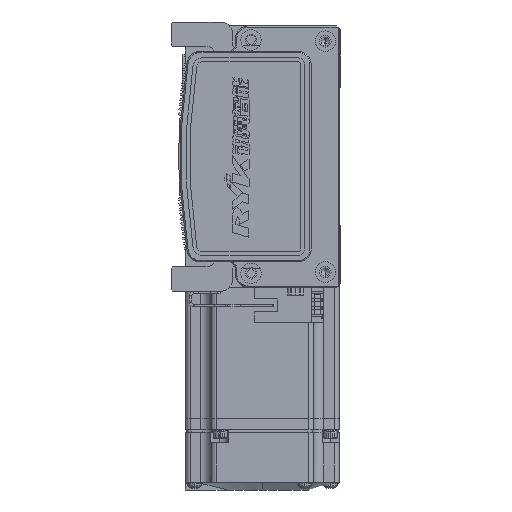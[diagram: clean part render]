
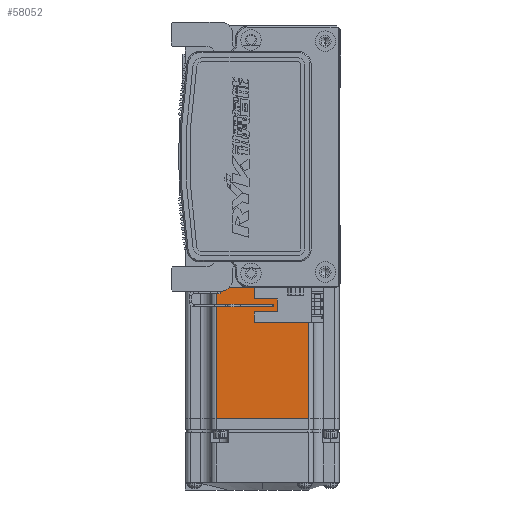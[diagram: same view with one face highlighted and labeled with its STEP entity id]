
A CAD part, left-side view. The second image highlights one B-rep face of the part: STEP entity #58052.
In plain terms, the highlighted planar face has unit normal (-1, 0, 0) as drawn and (0, 0, 1) by its records, which use the part's own axes.
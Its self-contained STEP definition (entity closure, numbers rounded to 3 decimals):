
#493 = VECTOR ( 'NONE', #22942, 1000. ) ;
#2596 = DIRECTION ( 'NONE',  ( -1., 0., 0. ) ) ;
#8461 = VERTEX_POINT ( 'NONE', #48871 ) ;
#10957 = ORIENTED_EDGE ( 'NONE', *, *, #15769, .F. ) ;
#15769 = EDGE_CURVE ( 'NONE', #8461, #68010, #45784, .T. ) ;
#19902 = CARTESIAN_POINT ( 'NONE',  ( -70.95, 0., 30. ) ) ;
#21310 = FACE_OUTER_BOUND ( 'NONE', #24462, .T. ) ;
#22942 = DIRECTION ( 'NONE',  ( -1., 0., 0. ) ) ;
#24462 = EDGE_LOOP ( 'NONE', ( #10957, #39654, #52983, #48721 ) ) ;
#26247 = LINE ( 'NONE', #34016, #493 ) ;
#26993 = AXIS2_PLACEMENT_3D ( 'NONE', #32594, #71032, #37910 ) ;
#28807 = EDGE_CURVE ( 'NONE', #53169, #58728, #63846, .T. ) ;
#31681 = LINE ( 'NONE', #35531, #52378 ) ;
#32177 = CARTESIAN_POINT ( 'NONE',  ( -70.95, 18., 30. ) ) ;
#32594 = CARTESIAN_POINT ( 'NONE',  ( -6.5, -25., 30. ) ) ;
#32785 = EDGE_CURVE ( 'NONE', #8461, #53169, #31681, .T. ) ;
#34016 = CARTESIAN_POINT ( 'NONE',  ( -6.5, -18., 30. ) ) ;
#35531 = CARTESIAN_POINT ( 'NONE',  ( -6.5, 18., 30. ) ) ;
#36003 = DIRECTION ( 'NONE',  ( 0., -1., 0. ) ) ;
#36333 = VECTOR ( 'NONE', #65783, 1000. ) ;
#37465 = CARTESIAN_POINT ( 'NONE',  ( -7.75, 0., 30. ) ) ;
#37910 = DIRECTION ( 'NONE',  ( 1., 0., 0. ) ) ;
#38601 = PLANE ( 'NONE',  #26993 ) ;
#39654 = ORIENTED_EDGE ( 'NONE', *, *, #32785, .T. ) ;
#45784 = LINE ( 'NONE', #37465, #36333 ) ;
#47646 = VECTOR ( 'NONE', #36003, 1000. ) ;
#48721 = ORIENTED_EDGE ( 'NONE', *, *, #66096, .F. ) ;
#48871 = CARTESIAN_POINT ( 'NONE',  ( -7.75, 18., 30. ) ) ;
#52378 = VECTOR ( 'NONE', #2596, 1000. ) ;
#52983 = ORIENTED_EDGE ( 'NONE', *, *, #28807, .T. ) ;
#53169 = VERTEX_POINT ( 'NONE', #32177 ) ;
#56341 = CARTESIAN_POINT ( 'NONE',  ( -7.75, -18., 30. ) ) ;
#58052 = ADVANCED_FACE ( 'NONE', ( #21310 ), #38601, .T. ) ;
#58728 = VERTEX_POINT ( 'NONE', #67848 ) ;
#63846 = LINE ( 'NONE', #19902, #47646 ) ;
#65783 = DIRECTION ( 'NONE',  ( 0., -1., 0. ) ) ;
#66096 = EDGE_CURVE ( 'NONE', #68010, #58728, #26247, .T. ) ;
#67848 = CARTESIAN_POINT ( 'NONE',  ( -70.95, -18., 30. ) ) ;
#68010 = VERTEX_POINT ( 'NONE', #56341 ) ;
#71032 = DIRECTION ( 'NONE',  ( 0., 0., 1. ) ) ;
